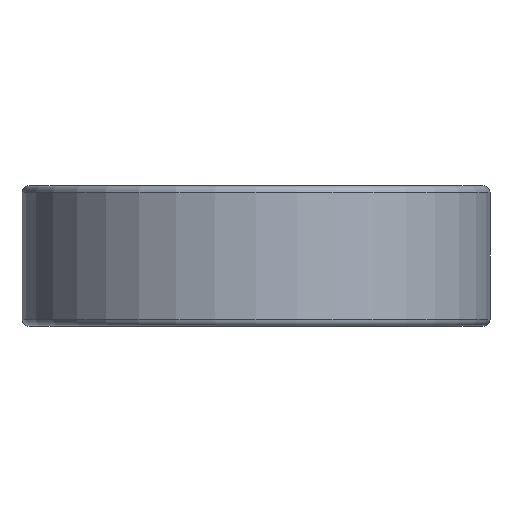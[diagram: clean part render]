
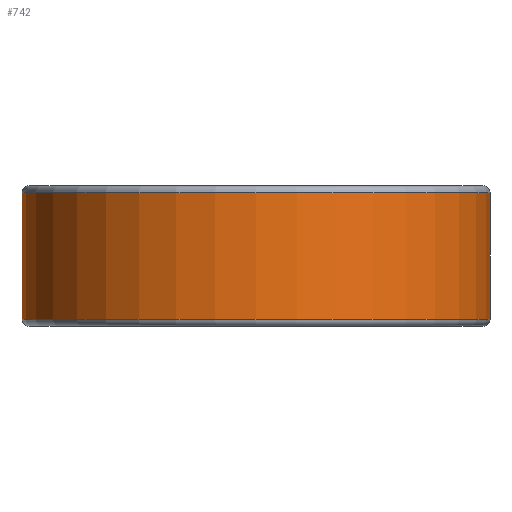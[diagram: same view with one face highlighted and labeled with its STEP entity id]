
A CAD part, front view. The second image highlights one B-rep face of the part: STEP entity #742.
In plain terms, the highlighted cylindrical face has radius 20 mm (diameter 40 mm), a full revolution.
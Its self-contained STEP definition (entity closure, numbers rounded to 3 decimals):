
#101=LINE('',#1121,#107);
#107=VECTOR('',#935,20.);
#113=CYLINDRICAL_SURFACE('',#814,20.);
#124=FACE_OUTER_BOUND('',#161,.T.);
#161=EDGE_LOOP('',(#501,#502,#503,#504,#505,#506));
#216=CIRCLE('',#810,20.);
#217=CIRCLE('',#811,20.);
#220=CIRCLE('',#815,20.);
#221=CIRCLE('',#816,20.);
#273=VERTEX_POINT('',#1110);
#274=VERTEX_POINT('',#1111);
#276=VERTEX_POINT('',#1118);
#277=VERTEX_POINT('',#1119);
#366=EDGE_CURVE('',#273,#274,#216,.T.);
#367=EDGE_CURVE('',#274,#273,#217,.T.);
#370=EDGE_CURVE('',#276,#277,#220,.T.);
#371=EDGE_CURVE('',#276,#274,#101,.T.);
#372=EDGE_CURVE('',#277,#276,#221,.T.);
#501=ORIENTED_EDGE('',*,*,#370,.F.);
#502=ORIENTED_EDGE('',*,*,#371,.T.);
#503=ORIENTED_EDGE('',*,*,#366,.F.);
#504=ORIENTED_EDGE('',*,*,#367,.F.);
#505=ORIENTED_EDGE('',*,*,#371,.F.);
#506=ORIENTED_EDGE('',*,*,#372,.F.);
#742=ADVANCED_FACE('',(#124),#113,.T.);
#810=AXIS2_PLACEMENT_3D('',#1112,#923,#924);
#811=AXIS2_PLACEMENT_3D('',#1113,#925,#926);
#814=AXIS2_PLACEMENT_3D('',#1117,#931,#932);
#815=AXIS2_PLACEMENT_3D('',#1120,#933,#934);
#816=AXIS2_PLACEMENT_3D('',#1122,#936,#937);
#923=DIRECTION('center_axis',(0.,0.,-1.));
#924=DIRECTION('ref_axis',(0.,-1.,0.));
#925=DIRECTION('center_axis',(0.,0.,-1.));
#926=DIRECTION('ref_axis',(0.,-1.,0.));
#931=DIRECTION('center_axis',(0.,0.,1.));
#932=DIRECTION('ref_axis',(0.,1.,0.));
#933=DIRECTION('center_axis',(0.,0.,1.));
#934=DIRECTION('ref_axis',(0.,-1.,0.));
#935=DIRECTION('',(0.,0.,-1.));
#936=DIRECTION('center_axis',(0.,0.,1.));
#937=DIRECTION('ref_axis',(0.,-1.,0.));
#1110=CARTESIAN_POINT('',(-20.,0.,0.6));
#1111=CARTESIAN_POINT('',(0.,-20.,0.6));
#1112=CARTESIAN_POINT('Origin',(0.,0.,0.6));
#1113=CARTESIAN_POINT('Origin',(0.,0.,0.6));
#1117=CARTESIAN_POINT('Origin',(0.,0.,6.));
#1118=CARTESIAN_POINT('',(0.,-20.,11.4));
#1119=CARTESIAN_POINT('',(-20.,0.,11.4));
#1120=CARTESIAN_POINT('Origin',(0.,0.,11.4));
#1121=CARTESIAN_POINT('',(0.,-20.,6.));
#1122=CARTESIAN_POINT('Origin',(0.,0.,11.4));
